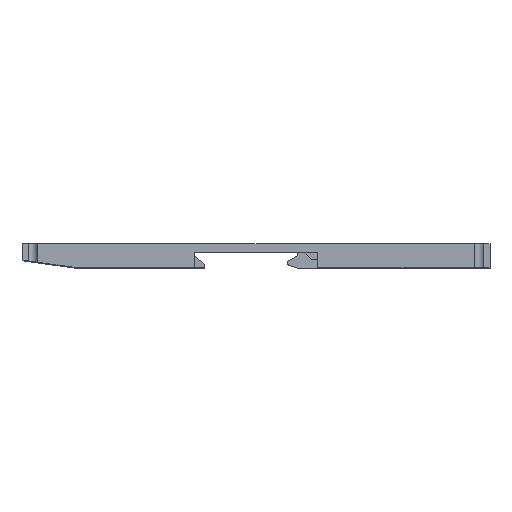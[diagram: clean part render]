
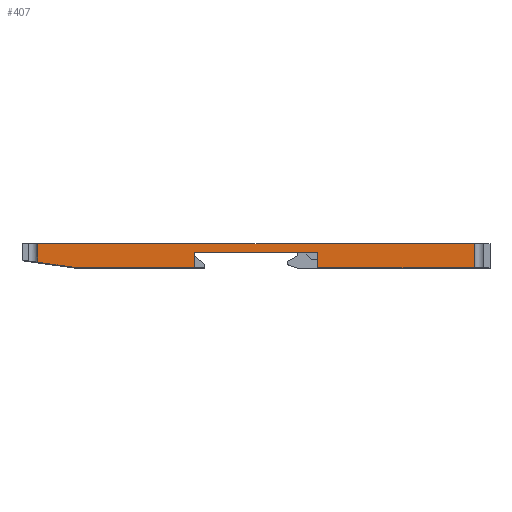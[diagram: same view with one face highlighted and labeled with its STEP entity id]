
A CAD part, top view. The second image highlights one B-rep face of the part: STEP entity #407.
In plain terms, the highlighted planar face has unit normal (0, 0, 1).
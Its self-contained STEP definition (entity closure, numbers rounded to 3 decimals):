
#58 = VECTOR ( 'NONE', #7265, 1000. ) ;
#98 = VERTEX_POINT ( 'NONE', #1744 ) ;
#121 = CARTESIAN_POINT ( 'NONE',  ( 135., 4.751, 120. ) ) ;
#319 = LINE ( 'NONE', #472, #8021 ) ;
#357 = VECTOR ( 'NONE', #9007, 1000. ) ;
#407 = ADVANCED_FACE ( 'NONE', ( #7529 ), #737, .T. ) ;
#472 = CARTESIAN_POINT ( 'NONE',  ( 4.5, -5.249, 120. ) ) ;
#622 = LINE ( 'NONE', #6686, #2917 ) ;
#698 = ORIENTED_EDGE ( 'NONE', *, *, #5186, .T. ) ;
#714 = VERTEX_POINT ( 'NONE', #4849 ) ;
#737 = PLANE ( 'NONE',  #6698 ) ;
#941 = ORIENTED_EDGE ( 'NONE', *, *, #1521, .F. ) ;
#1085 = DIRECTION ( 'NONE',  ( 0.99, -0.139, 0. ) ) ;
#1342 = DIRECTION ( 'NONE',  ( 0., 0., 1. ) ) ;
#1493 = VERTEX_POINT ( 'NONE', #3228 ) ;
#1521 = EDGE_CURVE ( 'NONE', #1842, #8294, #4451, .T. ) ;
#1526 = EDGE_CURVE ( 'NONE', #8294, #98, #5980, .T. ) ;
#1744 = CARTESIAN_POINT ( 'NONE',  ( 49.75, 2.251, 120. ) ) ;
#1842 = VERTEX_POINT ( 'NONE', #5260 ) ;
#1861 = ORIENTED_EDGE ( 'NONE', *, *, #3657, .T. ) ;
#2073 = ORIENTED_EDGE ( 'NONE', *, *, #1526, .F. ) ;
#2152 = CARTESIAN_POINT ( 'NONE',  ( 85.25, 2.251, 120. ) ) ;
#2543 = VERTEX_POINT ( 'NONE', #8980 ) ;
#2572 = EDGE_CURVE ( 'NONE', #1493, #714, #622, .T. ) ;
#2645 = CARTESIAN_POINT ( 'NONE',  ( 50., 2.251, 120. ) ) ;
#2853 = DIRECTION ( 'NONE',  ( 1., 0., 0. ) ) ;
#2917 = VECTOR ( 'NONE', #5328, 1000. ) ;
#2965 = ORIENTED_EDGE ( 'NONE', *, *, #5970, .T. ) ;
#3053 = DIRECTION ( 'NONE',  ( 1., 0., 0. ) ) ;
#3228 = CARTESIAN_POINT ( 'NONE',  ( 130.5, 4.751, 120. ) ) ;
#3322 = CARTESIAN_POINT ( 'NONE',  ( 135., 4.751, 120. ) ) ;
#3516 = EDGE_CURVE ( 'NONE', #1493, #7318, #7867, .T. ) ;
#3657 = EDGE_CURVE ( 'NONE', #6496, #4314, #5189, .T. ) ;
#4007 = ORIENTED_EDGE ( 'NONE', *, *, #7237, .F. ) ;
#4314 = VERTEX_POINT ( 'NONE', #4326 ) ;
#4326 = CARTESIAN_POINT ( 'NONE',  ( 16., -2.249, 120. ) ) ;
#4451 = LINE ( 'NONE', #8714, #6227 ) ;
#4474 = CARTESIAN_POINT ( 'NONE',  ( 4.5, 4.751, 120. ) ) ;
#4562 = LINE ( 'NONE', #8963, #7151 ) ;
#4692 = DIRECTION ( 'NONE',  ( 1., 0., 0. ) ) ;
#4849 = CARTESIAN_POINT ( 'NONE',  ( 130.5, -2.249, 120. ) ) ;
#4920 = DIRECTION ( 'NONE',  ( -1., 0., 0. ) ) ;
#4943 = ORIENTED_EDGE ( 'NONE', *, *, #3516, .T. ) ;
#5057 = VECTOR ( 'NONE', #1085, 1000. ) ;
#5186 = EDGE_CURVE ( 'NONE', #4314, #2543, #6984, .T. ) ;
#5189 = LINE ( 'NONE', #7137, #5057 ) ;
#5230 = DIRECTION ( 'NONE',  ( 0., 1., 0. ) ) ;
#5246 = VECTOR ( 'NONE', #4920, 1000. ) ;
#5260 = CARTESIAN_POINT ( 'NONE',  ( 85.25, -2.249, 120. ) ) ;
#5328 = DIRECTION ( 'NONE',  ( 0., -1., 0. ) ) ;
#5910 = EDGE_CURVE ( 'NONE', #6496, #7318, #319, .T. ) ;
#5970 = EDGE_CURVE ( 'NONE', #1842, #714, #4562, .T. ) ;
#5980 = LINE ( 'NONE', #2645, #5246 ) ;
#5985 = CARTESIAN_POINT ( 'NONE',  ( 49.75, 1.251, 120. ) ) ;
#6083 = DIRECTION ( 'NONE',  ( 0., 1., 0. ) ) ;
#6227 = VECTOR ( 'NONE', #5230, 1000. ) ;
#6300 = CARTESIAN_POINT ( 'NONE',  ( 4.5, -0.632, 120. ) ) ;
#6496 = VERTEX_POINT ( 'NONE', #6300 ) ;
#6686 = CARTESIAN_POINT ( 'NONE',  ( 130.5, -5.249, 120. ) ) ;
#6698 = AXIS2_PLACEMENT_3D ( 'NONE', #121, #1342, #2853 ) ;
#6760 = ORIENTED_EDGE ( 'NONE', *, *, #5910, .F. ) ;
#6984 = LINE ( 'NONE', #7262, #8610 ) ;
#7137 = CARTESIAN_POINT ( 'NONE',  ( 0., 0., 120. ) ) ;
#7151 = VECTOR ( 'NONE', #3053, 1000. ) ;
#7237 = EDGE_CURVE ( 'NONE', #98, #2543, #7796, .T. ) ;
#7262 = CARTESIAN_POINT ( 'NONE',  ( 16., -2.249, 120. ) ) ;
#7265 = DIRECTION ( 'NONE',  ( -1., 0., 0. ) ) ;
#7318 = VERTEX_POINT ( 'NONE', #4474 ) ;
#7529 = FACE_OUTER_BOUND ( 'NONE', #8103, .T. ) ;
#7796 = LINE ( 'NONE', #5985, #357 ) ;
#7867 = LINE ( 'NONE', #3322, #58 ) ;
#8021 = VECTOR ( 'NONE', #6083, 1000. ) ;
#8103 = EDGE_LOOP ( 'NONE', ( #698, #4007, #2073, #941, #2965, #8662, #4943, #6760, #1861 ) ) ;
#8294 = VERTEX_POINT ( 'NONE', #2152 ) ;
#8610 = VECTOR ( 'NONE', #4692, 1000. ) ;
#8662 = ORIENTED_EDGE ( 'NONE', *, *, #2572, .F. ) ;
#8714 = CARTESIAN_POINT ( 'NONE',  ( 85.25, 2.251, 120. ) ) ;
#8963 = CARTESIAN_POINT ( 'NONE',  ( 16., -2.249, 120. ) ) ;
#8980 = CARTESIAN_POINT ( 'NONE',  ( 49.75, -2.249, 120. ) ) ;
#9007 = DIRECTION ( 'NONE',  ( 0., -1., 0. ) ) ;
